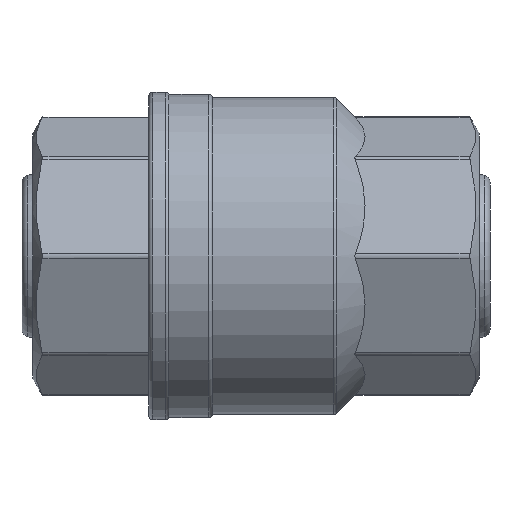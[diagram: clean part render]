
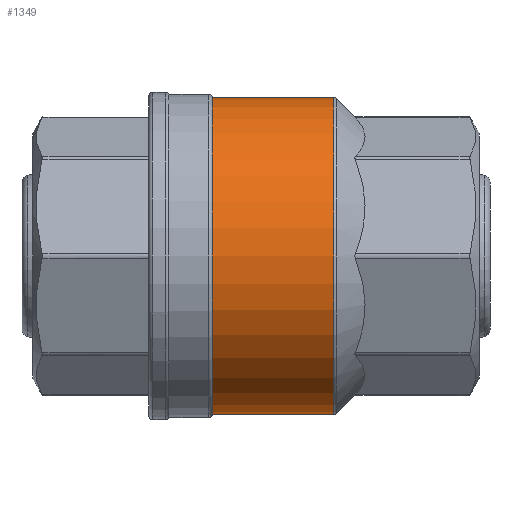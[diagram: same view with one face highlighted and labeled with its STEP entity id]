
A CAD part, front view. The second image highlights one B-rep face of the part: STEP entity #1349.
In plain terms, the highlighted cylindrical face has radius 80 mm (diameter 160 mm), a partial arc.
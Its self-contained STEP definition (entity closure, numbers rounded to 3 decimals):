
#65 = EDGE_LOOP ( 'NONE', ( #11399, #11400, #11401, #11402 ) ) ;
#678 = EDGE_CURVE ( 'NONE', #3473, #3391, #1431, .T. ) ;
#679 = EDGE_CURVE ( 'NONE', #3475, #3394, #1436, .T. ) ;
#739 = EDGE_CURVE ( 'NONE', #3473, #3475, #11218, .T. ) ;
#740 = EDGE_CURVE ( 'NONE', #3394, #3391, #11210, .T. ) ;
#1349 = ADVANCED_FACE ( 'NONE', ( #7639 ), #7638, .T. ) ;
#1426 = CARTESIAN_POINT ( 'NONE',  ( -22., 0., 80. ) ) ;
#1431 = LINE ( 'NONE', #1426, #11177 ) ;
#1435 = DIRECTION ( 'NONE',  ( 1., 0., 0. ) ) ;
#1436 = LINE ( 'NONE', #1438, #11181 ) ;
#1438 = CARTESIAN_POINT ( 'NONE',  ( -22., 0., -80. ) ) ;
#1439 = DIRECTION ( 'NONE',  ( 1., 0., 0. ) ) ;
#1798 = CARTESIAN_POINT ( 'NONE',  ( -22., 0., 0. ) ) ;
#1799 = DIRECTION ( 'NONE',  ( 1., 0., 0. ) ) ;
#1800 = DIRECTION ( 'NONE',  ( 0., 0., 1. ) ) ;
#1801 = CARTESIAN_POINT ( 'NONE',  ( 39.172, 0., 0. ) ) ;
#1802 = DIRECTION ( 'NONE',  ( -1., 0., 0. ) ) ;
#1803 = DIRECTION ( 'NONE',  ( 0., 0., -1. ) ) ;
#3391 = VERTEX_POINT ( 'NONE', #5635 ) ;
#3394 = VERTEX_POINT ( 'NONE', #5638 ) ;
#3473 = VERTEX_POINT ( 'NONE', #5717 ) ;
#3475 = VERTEX_POINT ( 'NONE', #5719 ) ;
#5635 = CARTESIAN_POINT ( 'NONE',  ( 39.172, 0., 80. ) ) ;
#5638 = CARTESIAN_POINT ( 'NONE',  ( 39.172, 0., -80. ) ) ;
#5717 = CARTESIAN_POINT ( 'NONE',  ( -22., 0., 80. ) ) ;
#5719 = CARTESIAN_POINT ( 'NONE',  ( -22., 0., -80. ) ) ;
#7633 = CARTESIAN_POINT ( 'NONE',  ( -22., 0., 0. ) ) ;
#7635 = DIRECTION ( 'NONE',  ( 1., 0., 0. ) ) ;
#7638 = CYLINDRICAL_SURFACE ( 'NONE', #10214, 80. ) ;
#7639 = FACE_OUTER_BOUND ( 'NONE', #65, .T. ) ;
#7641 = DIRECTION ( 'NONE',  ( 0., 0., -1. ) ) ;
#10214 = AXIS2_PLACEMENT_3D ( 'NONE', #7633, #7635, #7641 ) ;
#11177 = VECTOR ( 'NONE', #1435, 1000. ) ;
#11181 = VECTOR ( 'NONE', #1439, 1000. ) ;
#11193 = AXIS2_PLACEMENT_3D ( 'NONE', #1798, #1799, #1800 ) ;
#11210 = CIRCLE ( 'NONE', #11228, 80. ) ;
#11218 = CIRCLE ( 'NONE', #11193, 80. ) ;
#11228 = AXIS2_PLACEMENT_3D ( 'NONE', #1801, #1802, #1803 ) ;
#11399 = ORIENTED_EDGE ( 'NONE', *, *, #678, .F. ) ;
#11400 = ORIENTED_EDGE ( 'NONE', *, *, #739, .T. ) ;
#11401 = ORIENTED_EDGE ( 'NONE', *, *, #679, .T. ) ;
#11402 = ORIENTED_EDGE ( 'NONE', *, *, #740, .T. ) ;
